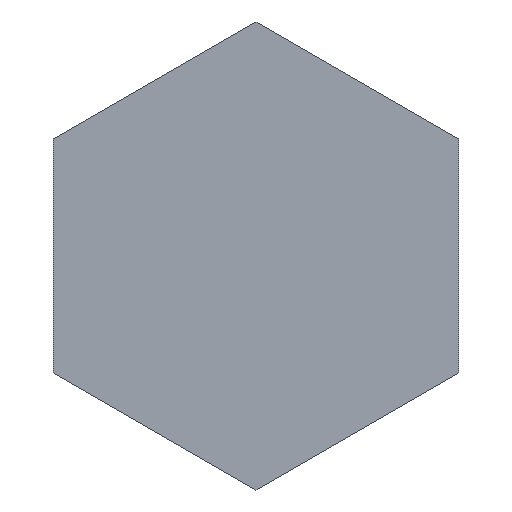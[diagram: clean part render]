
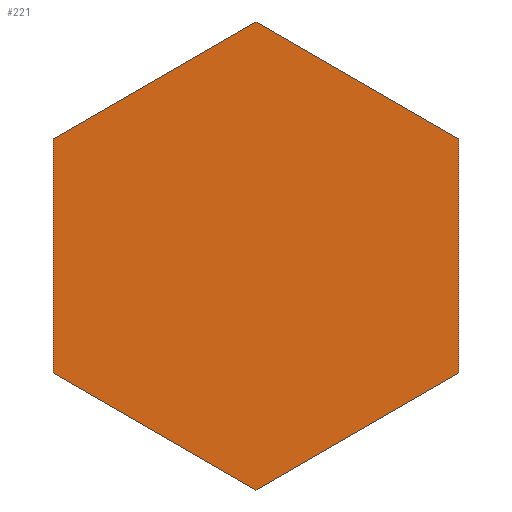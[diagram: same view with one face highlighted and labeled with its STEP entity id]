
A CAD part, front view. The second image highlights one B-rep face of the part: STEP entity #221.
In plain terms, the highlighted planar face has unit normal (0, -1, 0).
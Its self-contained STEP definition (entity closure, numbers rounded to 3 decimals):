
#55=FACE_OUTER_BOUND('',#65,.T.);
#65=EDGE_LOOP('',(#196,#197,#198,#199,#200,#201));
#76=LINE('',#364,#100);
#81=LINE('',#374,#105);
#83=LINE('',#378,#107);
#86=LINE('',#383,#110);
#88=LINE('',#387,#112);
#89=LINE('',#389,#113);
#100=VECTOR('',#286,10.);
#105=VECTOR('',#295,10.);
#107=VECTOR('',#299,10.);
#110=VECTOR('',#304,10.);
#112=VECTOR('',#308,10.);
#113=VECTOR('',#311,10.);
#122=VERTEX_POINT('',#361);
#123=VERTEX_POINT('',#363);
#126=VERTEX_POINT('',#373);
#127=VERTEX_POINT('',#377);
#128=VERTEX_POINT('',#381);
#129=VERTEX_POINT('',#385);
#140=EDGE_CURVE('',#122,#123,#76,.T.);
#145=EDGE_CURVE('',#126,#122,#81,.T.);
#147=EDGE_CURVE('',#127,#126,#83,.T.);
#150=EDGE_CURVE('',#128,#127,#86,.T.);
#152=EDGE_CURVE('',#129,#128,#88,.T.);
#153=EDGE_CURVE('',#123,#129,#89,.T.);
#196=ORIENTED_EDGE('',*,*,#140,.F.);
#197=ORIENTED_EDGE('',*,*,#145,.F.);
#198=ORIENTED_EDGE('',*,*,#147,.F.);
#199=ORIENTED_EDGE('',*,*,#150,.F.);
#200=ORIENTED_EDGE('',*,*,#152,.F.);
#201=ORIENTED_EDGE('',*,*,#153,.F.);
#211=PLANE('',#254);
#221=ADVANCED_FACE('',(#55),#211,.F.);
#254=AXIS2_PLACEMENT_3D('',#390,#312,#313);
#286=DIRECTION('',(0.,0.,1.));
#295=DIRECTION('',(-0.866,0.,0.5));
#299=DIRECTION('',(-0.866,0.,-0.5));
#304=DIRECTION('',(0.,0.,-1.));
#308=DIRECTION('',(0.866,0.,-0.5));
#311=DIRECTION('',(0.866,0.,0.5));
#312=DIRECTION('center_axis',(0.,1.,0.));
#313=DIRECTION('ref_axis',(0.,0.,1.));
#361=CARTESIAN_POINT('',(-20.,0.,-11.547));
#363=CARTESIAN_POINT('',(-20.,0.,11.547));
#364=CARTESIAN_POINT('',(-20.,0.,-11.547));
#373=CARTESIAN_POINT('',(0.,0.,-23.094));
#374=CARTESIAN_POINT('',(0.,0.,-23.094));
#377=CARTESIAN_POINT('',(20.,0.,-11.547));
#378=CARTESIAN_POINT('',(20.,0.,-11.547));
#381=CARTESIAN_POINT('',(20.,0.,11.547));
#383=CARTESIAN_POINT('',(20.,0.,11.547));
#385=CARTESIAN_POINT('',(0.,0.,23.094));
#387=CARTESIAN_POINT('',(0.,0.,23.094));
#389=CARTESIAN_POINT('',(-20.,0.,11.547));
#390=CARTESIAN_POINT('Origin',(0.,0.,0.));
